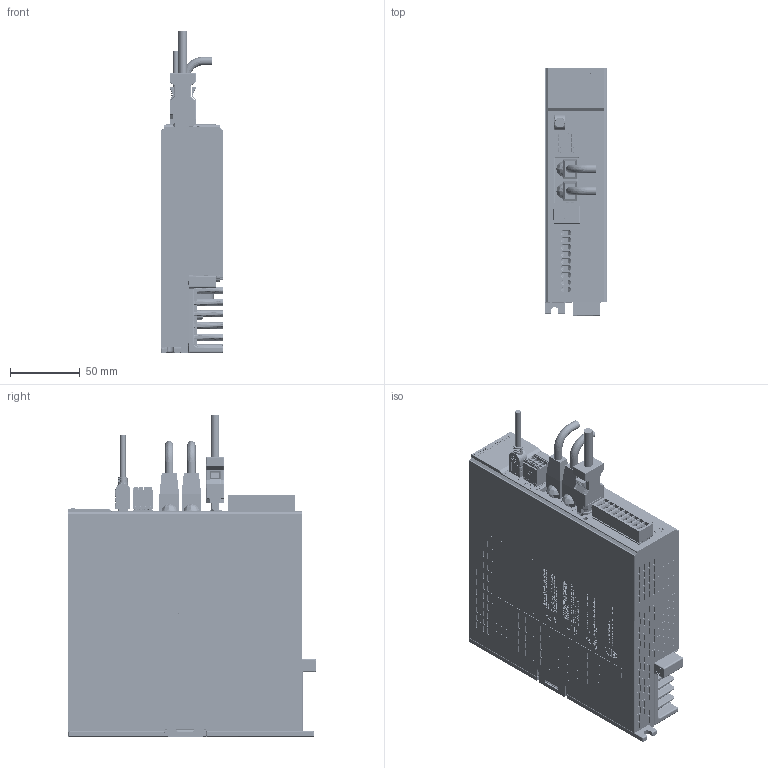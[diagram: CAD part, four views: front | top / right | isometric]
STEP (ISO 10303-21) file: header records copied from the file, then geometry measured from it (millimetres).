
FILE_DESCRIPTION(/* description */ (''),/* implementation_level */ '2;1');
FILE_NAME(/* name */ 'DS5C2-20P1-PTA官网图+EPLAN图-240127',/* time_stamp */ '2024-04-23T15:15:57+08:00',/* author */ (''),/* organization */ (''),/* preprocessor_version */ 'ST-DEVELOPER v19.2',/* originating_system */ 'Rhino 8.1',/* authorisation */ '');
FILE_SCHEMA (('CONFIG_CONTROL_DESIGN'));
Products named in the file (4): Document; 图块 01; 图块 02; 图块 03
Bounding box: 45.07 x 178.35 x 230.4 mm (x, y, z)
Volume: 679161.9 mm3; surface area: 243314.4 mm2
Topology: 895 solids, 898 shells, 25386 faces, 67990 edges, 44788 vertices
Faces by surface type: plane 19638, bspline 2968, cylinder 2780
Entity records: 845654 total; most frequent: CARTESIAN_POINT 368395, ORIENTED_EDGE 135623, EDGE_CURVE 67842, B_SPLINE_CURVE_WITH_KNOTS 64867, VERTEX_POINT 44786, DIRECTION 28040, EDGE_LOOP 26723, ADVANCED_FACE 25380
